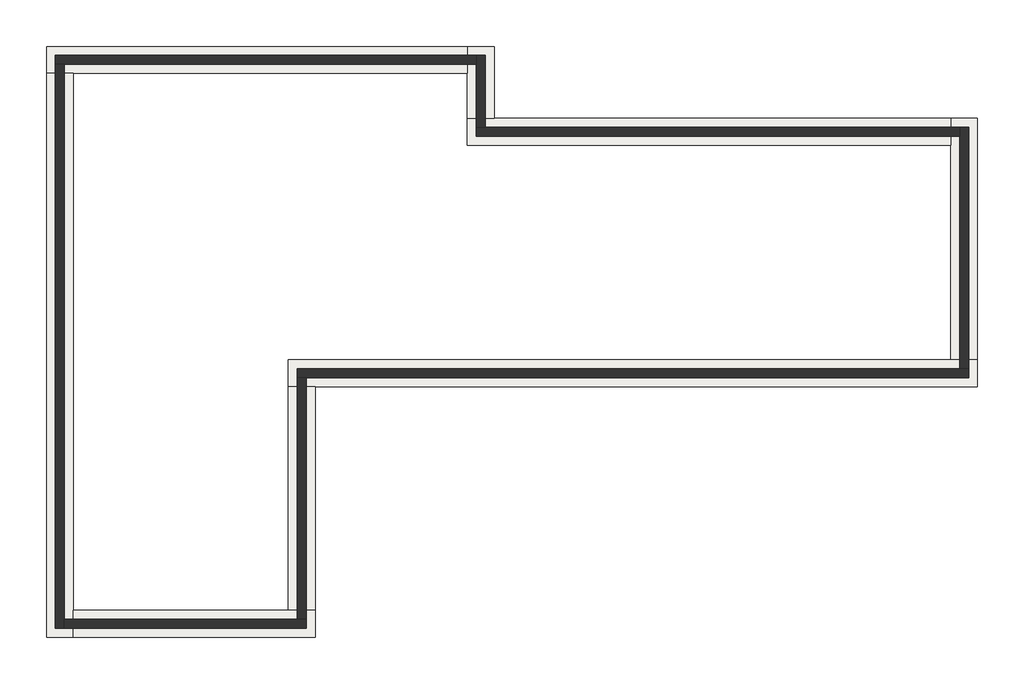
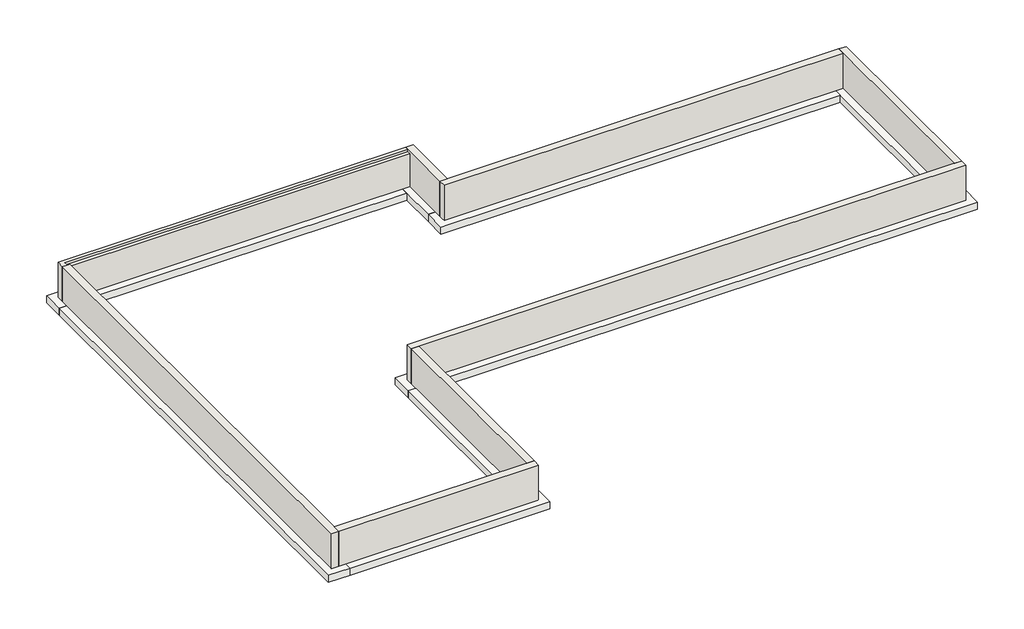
# One storey: 8 footings, 8 walls.
"""IFC4 building model written with IfcOpenShell, lengths in millimetres."""

from ifc_helpers import new_model, si_unit, frame, origin, place, context, project, spatial, polyline, outline, extrude, faceted_brep, element, save

model = new_model("IFC4")

# Units and contexts
model_context = context("Model", 3, world=origin())
ifc_project = project(units=[si_unit("LENGTHUNIT", "METRE", prefix="MILLI")], contexts=[model_context])

# Site, building, storey
site = spatial("IfcSite", under=ifc_project)
building = spatial("IfcBuilding", under=site)
storey = spatial("IfcBuildingStorey", under=building, Name="T.O. Footing", Elevation=-1530.0)

# Footings
placement = place(None, origin())
element("IfcFooting", 1, ObjectType="Bearing Footing - 36\" x 12\"", at=placement, inside=storey, context=model_context, shape_type="Brep", body=[
    faceted_brep([(17458.2733448, 557.9855424, -1530.0), (16543.8733448, 557.9855424, -1530.0), (-6011.3266552, 557.9855424, -1530.0), (-6011.3266552, -356.4144576, -1530.0), (-5096.9266552, -356.4144576, -1530.0), (17458.2733448, -356.4144576, -1530.0), (17458.2733448, -356.4144576, -1834.8), (-6011.3266552, -356.4144576, -1834.8), (-5096.9266552, -356.4144576, -1834.8), (17458.2733448, 557.9855424, -1834.8), (-6011.3266552, 557.9855424, -1834.8), (16543.8733448, 557.9855424, -1834.8)], [[[0, 1, 2, 3, 4, 5]], [[6, 5, 4, 3, 7, 8]], [[9, 6, 8, 7, 10, 11]], [[0, 9, 11, 10, 2, 1]], [[0, 5, 6, 9]], [[3, 2, 10, 7]]]),
])
element("IfcFooting", 2, ObjectType="Bearing Footing - 36\" x 12\"", at=placement, inside=storey, context=model_context, shape_type="Brep", body=[
    faceted_brep([(17458.2733448, 8787.5855424, -1530.0), (16543.8733448, 8787.5855424, -1530.0), (16543.8733448, 7873.1855424, -1530.0), (16543.8733448, 557.9855424, -1530.0), (17458.2733448, 557.9855424, -1530.0), (17458.2733448, 8787.5855424, -1834.8), (17458.2733448, 557.9855424, -1834.8), (16543.8733448, 8787.5855424, -1834.8), (16543.8733448, 557.9855424, -1834.8), (16543.8733448, 7873.1855424, -1834.8)], [[[0, 1, 2, 3, 4]], [[5, 0, 4, 6]], [[7, 5, 6, 8, 9]], [[1, 7, 9, 8, 3, 2]], [[1, 0, 5, 7]], [[4, 3, 8, 6]]]),
])
element("IfcFooting", 3, ObjectType="Bearing Footing - 36\" x 12\"", at=placement, inside=storey, context=model_context, shape_type="Brep", body=[
    faceted_brep([(84.6733448, 8787.5855424, -1530.0), (84.6733448, 7873.1855424, -1530.0), (16543.8733448, 7873.1855424, -1530.0), (16543.8733448, 8787.5855424, -1530.0), (999.0733448, 8787.5855424, -1530.0), (84.6733448, 8787.5855424, -1834.8), (16543.8733448, 8787.5855424, -1834.8), (999.0733448, 8787.5855424, -1834.8), (84.6733448, 7873.1855424, -1834.8), (16543.8733448, 7873.1855424, -1834.8)], [[[0, 1, 2, 3, 4]], [[5, 0, 4, 3, 6, 7]], [[8, 5, 7, 6, 9]], [[1, 8, 9, 2]], [[1, 0, 5, 8]], [[3, 2, 9, 6]]]),
])
element("IfcFooting", 4, ObjectType="Bearing Footing - 36\" x 12\"", at=placement, inside=storey, context=model_context, shape_type="Brep", body=[
    faceted_brep([(999.0733448, 11225.9855424, -1530.0), (84.6733448, 11225.9855424, -1530.0), (84.6733448, 10311.5855424, -1530.0), (84.6733448, 8787.5855424, -1530.0), (999.0733448, 8787.5855424, -1530.0), (999.0733448, 11225.9855424, -1834.8), (999.0733448, 8787.5855424, -1834.8), (84.6733448, 11225.9855424, -1834.8), (84.6733448, 8787.5855424, -1834.8), (84.6733448, 10311.5855424, -1834.8)], [[[0, 1, 2, 3, 4]], [[5, 0, 4, 6]], [[7, 5, 6, 8, 9]], [[1, 7, 9, 8, 3, 2]], [[1, 0, 5, 7]], [[4, 3, 8, 6]]]),
])
element("IfcFooting", 5, ObjectType="Bearing Footing - 36\" x 12\"", at=placement, inside=storey, context=model_context, shape_type="Brep", body=[
    faceted_brep([(-14240.9266552, 11225.9855424, -1530.0), (-14240.9266552, 10311.5855424, -1530.0), (-13326.5266552, 10311.5855424, -1530.0), (84.6733448, 10311.5855424, -1530.0), (84.6733448, 11225.9855424, -1530.0), (-14240.9266552, 11225.9855424, -1834.8), (84.6733448, 11225.9855424, -1834.8), (-14240.9266552, 10311.5855424, -1834.8), (84.6733448, 10311.5855424, -1834.8), (-13326.5266552, 10311.5855424, -1834.8)], [[[0, 1, 2, 3, 4]], [[5, 0, 4, 6]], [[7, 5, 6, 8, 9]], [[1, 7, 9, 8, 3, 2]], [[1, 0, 5, 7]], [[4, 3, 8, 6]]]),
])
element("IfcFooting", 6, ObjectType="Bearing Footing - 36\" x 12\"", at=placement, inside=storey, context=model_context, shape_type="Brep", body=[
    faceted_brep([(-14240.9266552, -8890.8144576, -1530.0), (-13326.5266552, -8890.8144576, -1530.0), (-13326.5266552, -7976.4144576, -1530.0), (-13326.5266552, 10311.5855424, -1530.0), (-14240.9266552, 10311.5855424, -1530.0), (-14240.9266552, -8890.8144576, -1834.8), (-14240.9266552, 10311.5855424, -1834.8), (-13326.5266552, -8890.8144576, -1834.8), (-13326.5266552, 10311.5855424, -1834.8), (-13326.5266552, -7976.4144576, -1834.8)], [[[0, 1, 2, 3, 4]], [[5, 0, 4, 6]], [[7, 5, 6, 8, 9]], [[1, 7, 9, 8, 3, 2]], [[1, 0, 5, 7]], [[4, 3, 8, 6]]]),
])
element("IfcFooting", 7, ObjectType="Bearing Footing - 36\" x 12\"", at=placement, inside=storey, context=model_context, shape_type="Brep", body=[
    faceted_brep([(-5096.9266552, -8890.8144576, -1530.0), (-5096.9266552, -7976.4144576, -1530.0), (-6011.3266552, -7976.4144576, -1530.0), (-13326.5266552, -7976.4144576, -1530.0), (-13326.5266552, -8890.8144576, -1530.0), (-5096.9266552, -8890.8144576, -1834.8), (-13326.5266552, -8890.8144576, -1834.8), (-5096.9266552, -7976.4144576, -1834.8), (-13326.5266552, -7976.4144576, -1834.8), (-6011.3266552, -7976.4144576, -1834.8)], [[[0, 1, 2, 3, 4]], [[5, 0, 4, 6]], [[7, 5, 6, 8, 9]], [[1, 7, 9, 8, 3, 2]], [[1, 0, 5, 7]], [[4, 3, 8, 6]]]),
])
element("IfcFooting", 8, ObjectType="Bearing Footing - 36\" x 12\"", at=placement, inside=storey, context=model_context, shape_type="SweptSolid", body=[
    extrude(outline(polyline([(-6011.3266552, -356.4144576), (-5096.9266552, -356.4144576), (-5096.9266552, -7976.4144576), (-6011.3266552, -7976.4144576), (-6011.3266552, -356.4144576)])), frame((0.0, 0.0, -1834.8), z_axis=(0.0, 0.0, 1.0), x_axis=(1.0, 0.0, 0.0)), (0.0, 0.0, 1.0), 304.8),
])

# Walls
element("IfcWall", 9, ObjectType="Foundation - 12\" Concrete", at=placement, inside=storey, context=model_context, shape_type="Brep", body=[
    faceted_brep([(17153.4733448, 253.1855424, -1530.0), (16848.6733448, 253.1855424, -1530.0), (-5706.5266552, 253.1855424, -1530.0), (-5706.5266552, 253.1855424, 0.0), (16848.6733448, 253.1855424, 0.0), (17153.4733448, 253.1855424, 0.0), (17153.4733448, -51.6144576, -1530.0), (17153.4733448, -51.6144576, 0.0), (-5401.7266552, -51.6144576, 0.0), (-5706.5266552, -51.6144576, 0.0), (-5706.5266552, -51.6144576, -1530.0), (-5401.7266552, -51.6144576, -1530.0)], [[[0, 1, 2, 3, 4, 5]], [[6, 7, 8, 9, 10, 11]], [[2, 1, 0, 6, 11, 10]], [[5, 4, 3, 9, 8, 7]], [[0, 5, 7, 6]], [[3, 2, 10, 9]]]),
])
element("IfcWall", 10, ObjectType="Foundation - 12\" Concrete", at=placement, inside=storey, context=model_context, shape_type="Brep", body=[
    faceted_brep([(16848.6733448, 8482.7855424, -1530.0), (16848.6733448, 8177.9855424, -1530.0), (16848.6733448, 253.1855424, -1530.0), (16848.6733448, 253.1855424, 0.0), (16848.6733448, 8177.9855424, 0.0), (16848.6733448, 8482.7855424, 0.0), (17153.4733448, 8482.7855424, -1530.0), (17153.4733448, 8482.7855424, 0.0), (17153.4733448, 253.1855424, 0.0), (17153.4733448, 253.1855424, -1530.0)], [[[0, 1, 2, 3, 4, 5]], [[6, 7, 8, 9]], [[2, 1, 0, 6, 9]], [[5, 4, 3, 8, 7]], [[3, 2, 9, 8]], [[0, 5, 7, 6]]]),
])
element("IfcWall", 11, ObjectType="Foundation - 12\" Concrete", at=placement, inside=storey, context=model_context, shape_type="Brep", body=[
    faceted_brep([(389.4733448, 8177.9855424, -1530.0), (16848.6733448, 8177.9855424, -1530.0), (16848.6733448, 8177.9855424, 0.0), (389.4733448, 8177.9855424, 0.0), (389.4733448, 8482.7855424, -1530.0), (389.4733448, 8482.7855424, 0.0), (694.2733448, 8482.7855424, 0.0), (16848.6733448, 8482.7855424, 0.0), (16848.6733448, 8482.7855424, -1530.0), (694.2733448, 8482.7855424, -1530.0)], [[[0, 1, 2, 3]], [[4, 5, 6, 7, 8, 9]], [[1, 0, 4, 9, 8]], [[3, 2, 7, 6, 5]], [[2, 1, 8, 7]], [[0, 3, 5, 4]]]),
])
element("IfcWall", 12, ObjectType="Foundation - 12\" Concrete", at=placement, inside=storey, context=model_context, shape_type="Brep", body=[
    faceted_brep([(389.4733448, 10921.1855424, -1530.0), (389.4733448, 10616.3855424, -1530.0), (389.4733448, 8482.7855424, -1530.0), (389.4733448, 8482.7855424, 0.0), (389.4733448, 10616.3855424, 0.0), (389.4733448, 10921.1855424, 0.0), (694.2733448, 10921.1855424, -1530.0), (694.2733448, 10921.1855424, 0.0), (694.2733448, 8482.7855424, 0.0), (694.2733448, 8482.7855424, -1530.0)], [[[0, 1, 2, 3, 4, 5]], [[6, 7, 8, 9]], [[2, 1, 0, 6, 9]], [[5, 4, 3, 8, 7]], [[3, 2, 9, 8]], [[0, 5, 7, 6]]]),
])
element("IfcWall", 13, ObjectType="Foundation - 12\" Concrete", at=placement, inside=storey, context=model_context, shape_type="Brep", body=[
    faceted_brep([(-13936.1266552, 10616.3855424, -1530.0), (-13631.3266552, 10616.3855424, -1530.0), (389.4733448, 10616.3855424, -1530.0), (389.4733448, 10616.3855424, -101.6), (-13748.8016552, 10616.3855424, -101.6), (-13748.8016552, 10616.3855424, 0.0), (-13936.1266552, 10616.3855424, 0.0), (389.4733448, 10921.1855424, -1530.0), (-13936.1266552, 10921.1855424, -1530.0), (-13936.1266552, 10921.1855424, 0.0), (389.4733448, 10921.1855424, 0.0), (-13748.8016552, 10779.8980424, 0.0), (389.4733448, 10779.8980424, 0.0), (389.4733448, 10779.8980424, -101.6), (-13748.8016552, 10779.8980424, -101.6)], [[[0, 1, 2, 3, 4, 5, 6]], [[7, 8, 9, 10]], [[2, 1, 0, 8, 7]], [[10, 9, 6, 5, 11, 12]], [[2, 7, 10, 12, 13, 3]], [[0, 6, 9, 8]], [[13, 14, 4, 3]], [[14, 11, 5, 4]], [[11, 14, 13, 12]]]),
])
element("IfcWall", 14, ObjectType="Foundation - 12\" Concrete", at=placement, inside=storey, context=model_context, shape_type="Brep", body=[
    faceted_brep([(-13631.3266552, -8586.0144576, -1530.0), (-13631.3266552, -8281.2144576, -1530.0), (-13631.3266552, 10616.3855424, -1530.0), (-13631.3266552, 10616.3855424, 0.0), (-13631.3266552, -8281.2144576, 0.0), (-13631.3266552, -8586.0144576, 0.0), (-13936.1266552, -8586.0144576, -1530.0), (-13936.1266552, -8586.0144576, 0.0), (-13936.1266552, 10616.3855424, 0.0), (-13936.1266552, 10616.3855424, -1530.0), (-13748.8016552, 10616.3855424, 0.0)], [[[0, 1, 2, 3, 4, 5]], [[6, 7, 8, 9]], [[2, 1, 0, 6, 9]], [[5, 4, 3, 10, 8, 7]], [[3, 2, 9, 8, 10]], [[0, 5, 7, 6]]]),
])
element("IfcWall", 15, ObjectType="Foundation - 12\" Concrete", at=placement, inside=storey, context=model_context, shape_type="Brep", body=[
    faceted_brep([(-5401.7266552, -8281.2144576, -1530.0), (-5706.5266552, -8281.2144576, -1530.0), (-13631.3266552, -8281.2144576, -1530.0), (-13631.3266552, -8281.2144576, 0.0), (-5706.5266552, -8281.2144576, 0.0), (-5401.7266552, -8281.2144576, 0.0), (-5401.7266552, -8586.0144576, -1530.0), (-5401.7266552, -8586.0144576, 0.0), (-13631.3266552, -8586.0144576, 0.0), (-13631.3266552, -8586.0144576, -1530.0)], [[[0, 1, 2, 3, 4, 5]], [[6, 7, 8, 9]], [[2, 1, 0, 6, 9]], [[5, 4, 3, 8, 7]], [[3, 2, 9, 8]], [[0, 5, 7, 6]]]),
])
element("IfcWall", 16, ObjectType="Foundation - 12\" Concrete", at=placement, inside=storey, context=model_context, shape_type="SweptSolid", body=[
    extrude(outline(polyline([(-5706.5266552, -8281.2144576), (-5706.5266552, -51.6144576), (-5401.7266552, -51.6144576), (-5401.7266552, -8281.2144576), (-5706.5266552, -8281.2144576)])), frame((0.0, 0.0, -1530.0), z_axis=(0.0, 0.0, 1.0), x_axis=(1.0, 0.0, 0.0)), (0.0, 0.0, 1.0), 1530.0),
])

save(model, "model.ifc")
